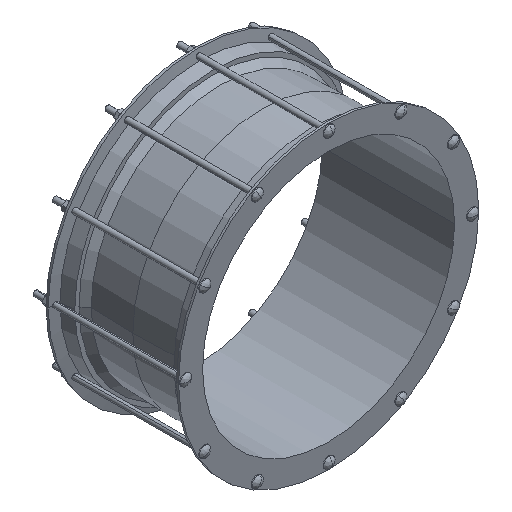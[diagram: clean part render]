
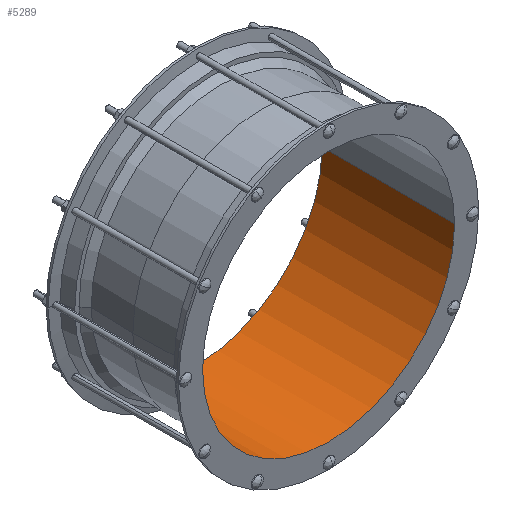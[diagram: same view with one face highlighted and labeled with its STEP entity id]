
A CAD part, isometric view. The second image highlights one B-rep face of the part: STEP entity #5289.
In plain terms, the highlighted cylindrical face has radius 287.25 mm (diameter 574.5 mm), a partial arc.
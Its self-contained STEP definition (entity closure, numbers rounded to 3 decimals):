
#1799=CARTESIAN_POINT('',(0.,151.,0.));
#1800=DIRECTION('',(0.,-1.,0.));
#1801=DIRECTION('',(-1.,0.,0.));
#1802=AXIS2_PLACEMENT_3D('',#1799,#1800,#1801);
#1929=CARTESIAN_POINT('',(0.,-151.,0.));
#1930=DIRECTION('',(0.,-1.,0.));
#1931=DIRECTION('',(-1.,0.,0.));
#1932=AXIS2_PLACEMENT_3D('',#1929,#1930,#1931);
#1934=DIRECTION('',(0.,1.,0.));
#1935=VECTOR('',#1934,302.);
#1936=CARTESIAN_POINT('',(-287.25,-151.,0.));
#1937=LINE('',#1936,#1935);
#1943=DIRECTION('',(0.,1.,0.));
#1944=VECTOR('',#1943,302.);
#1945=CARTESIAN_POINT('',(287.25,-151.,0.));
#1946=LINE('',#1945,#1944);
#3886=CARTESIAN_POINT('',(-287.25,-151.,0.));
#3887=CARTESIAN_POINT('',(-287.25,151.,0.));
#3888=VERTEX_POINT('',#3886);
#3889=VERTEX_POINT('',#3887);
#3904=CARTESIAN_POINT('',(287.25,-151.,0.));
#3905=CARTESIAN_POINT('',(287.25,151.,0.));
#3906=VERTEX_POINT('',#3904);
#3907=VERTEX_POINT('',#3905);
#5275=CARTESIAN_POINT('',(0.,166.1,0.));
#5276=DIRECTION('',(0.,-1.,0.));
#5277=DIRECTION('',(-1.,0.,0.));
#5278=AXIS2_PLACEMENT_3D('',#5275,#5276,#5277);
#5279=CYLINDRICAL_SURFACE('',#5278,287.25);
#5281=ORIENTED_EDGE('',*,*,#5280,.T.);
#5282=ORIENTED_EDGE('',*,*,#5197,.T.);
#5284=ORIENTED_EDGE('',*,*,#5283,.F.);
#5286=ORIENTED_EDGE('',*,*,#5285,.F.);
#5287=EDGE_LOOP('',(#5281,#5282,#5284,#5286));
#5288=FACE_OUTER_BOUND('',#5287,.F.);
#5289=ADVANCED_FACE('',(#5288),#5279,.F.);
#1803=CIRCLE('',#1802,287.25);
#1933=CIRCLE('',#1932,287.25);
#5197=EDGE_CURVE('',#3889,#3907,#1803,.T.);
#5280=EDGE_CURVE('',#3888,#3889,#1937,.T.);
#5283=EDGE_CURVE('',#3906,#3907,#1946,.T.);
#5285=EDGE_CURVE('',#3888,#3906,#1933,.T.);
